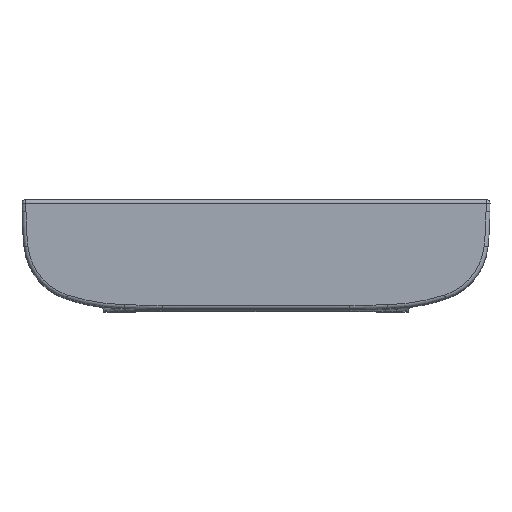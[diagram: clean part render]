
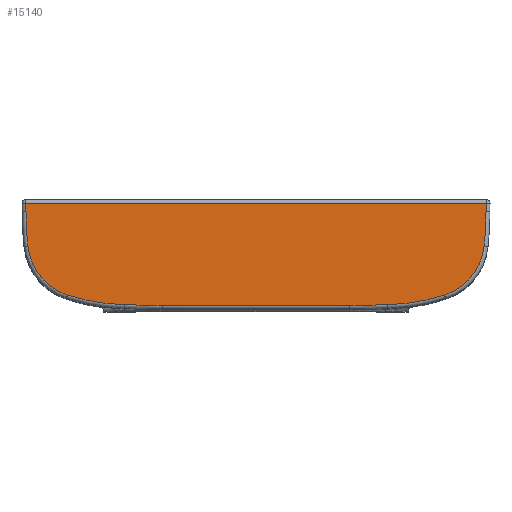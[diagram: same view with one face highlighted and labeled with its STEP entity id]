
A CAD part, top view. The second image highlights one B-rep face of the part: STEP entity #15140.
In plain terms, the highlighted planar face has unit normal (0, 0, 1).
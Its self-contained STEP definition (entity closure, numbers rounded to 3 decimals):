
#502 = ORIENTED_EDGE ( 'NONE', *, *, #25304, .F. ) ;
#631 = AXIS2_PLACEMENT_3D ( 'NONE', #7386, #17440, #24755 ) ;
#793 = CARTESIAN_POINT ( 'NONE',  ( -294.869, -14.956, 175. ) ) ;
#968 = DIRECTION ( 'NONE',  ( 1., 0., 0. ) ) ;
#1090 = CIRCLE ( 'NONE', #8884, 258.802 ) ;
#1128 = DIRECTION ( 'NONE',  ( 1., 0., 0. ) ) ;
#1131 = CIRCLE ( 'NONE', #3229, 258.802 ) ;
#1134 = DIRECTION ( 'NONE',  ( 0., 0., 1. ) ) ;
#1301 = CARTESIAN_POINT ( 'NONE',  ( -292.411, -59.273, 175. ) ) ;
#2089 = CIRCLE ( 'NONE', #10381, 1861.011 ) ;
#2299 = DIRECTION ( 'NONE',  ( 0., 0., -1. ) ) ;
#2377 = VERTEX_POINT ( 'NONE', #7970 ) ;
#2916 = LINE ( 'NONE', #793, #26970 ) ;
#3229 = AXIS2_PLACEMENT_3D ( 'NONE', #27295, #29098, #9921 ) ;
#3416 = CARTESIAN_POINT ( 'NONE',  ( 294.869, -14.956, 175. ) ) ;
#4262 = CARTESIAN_POINT ( 'NONE',  ( -180.566, -10.807, 175. ) ) ;
#4448 = CARTESIAN_POINT ( 'NONE',  ( 180.566, -4., 175. ) ) ;
#4599 = VERTEX_POINT ( 'NONE', #6798 ) ;
#4697 = AXIS2_PLACEMENT_3D ( 'NONE', #23087, #30092, #30408 ) ;
#4738 = AXIS2_PLACEMENT_3D ( 'NONE', #31236, #10763, #30590 ) ;
#5292 = VECTOR ( 'NONE', #14352, 1000. ) ;
#5521 = DIRECTION ( 'NONE',  ( -0.009, -1., 0. ) ) ;
#6393 = EDGE_CURVE ( 'NONE', #9484, #11441, #9798, .T. ) ;
#6798 = CARTESIAN_POINT ( 'NONE',  ( -241.724, -121.921, 175. ) ) ;
#7386 = CARTESIAN_POINT ( 'NONE',  ( 120.123, 1726.011, 175. ) ) ;
#7967 = VERTEX_POINT ( 'NONE', #8168 ) ;
#7970 = CARTESIAN_POINT ( 'NONE',  ( -120.123, -135., 175. ) ) ;
#8168 = CARTESIAN_POINT ( 'NONE',  ( -168.974, -134.359, 175. ) ) ;
#8362 = ORIENTED_EDGE ( 'NONE', *, *, #23865, .T. ) ;
#8571 = ORIENTED_EDGE ( 'NONE', *, *, #6393, .T. ) ;
#8884 = AXIS2_PLACEMENT_3D ( 'NONE', #10398, #1134, #968 ) ;
#9258 = CARTESIAN_POINT ( 'NONE',  ( 180.566, -10.807, 175. ) ) ;
#9340 = AXIS2_PLACEMENT_3D ( 'NONE', #9258, #31839, #21752 ) ;
#9484 = VERTEX_POINT ( 'NONE', #28355 ) ;
#9560 = DIRECTION ( 'NONE',  ( 0., 0., 1. ) ) ;
#9798 = CIRCLE ( 'NONE', #32116, 475.454 ) ;
#9921 = DIRECTION ( 'NONE',  ( -1., 0., 0. ) ) ;
#10057 = DIRECTION ( 'NONE',  ( 0.009, -1., 0. ) ) ;
#10381 = AXIS2_PLACEMENT_3D ( 'NONE', #29548, #11693, #24189 ) ;
#10398 = CARTESIAN_POINT ( 'NONE',  ( -162.18, 124.354, 175. ) ) ;
#10429 = VECTOR ( 'NONE', #5521, 1000. ) ;
#10608 = CARTESIAN_POINT ( 'NONE',  ( 168.974, -134.359, 175. ) ) ;
#10763 = DIRECTION ( 'NONE',  ( 0., 0., -1. ) ) ;
#10878 = CARTESIAN_POINT ( 'NONE',  ( 120.123, -135., 175. ) ) ;
#11441 = VERTEX_POINT ( 'NONE', #1301 ) ;
#11519 = LINE ( 'NONE', #28573, #15593 ) ;
#11647 = ORIENTED_EDGE ( 'NONE', *, *, #30036, .T. ) ;
#11693 = DIRECTION ( 'NONE',  ( 0., 0., 1. ) ) ;
#11994 = DIRECTION ( 'NONE',  ( 1., 0., 0. ) ) ;
#14162 = DIRECTION ( 'NONE',  ( -1., 0., 0. ) ) ;
#14352 = DIRECTION ( 'NONE',  ( -1., 0., 0. ) ) ;
#14597 = ORIENTED_EDGE ( 'NONE', *, *, #19014, .T. ) ;
#15107 = AXIS2_PLACEMENT_3D ( 'NONE', #4262, #2299, #14162 ) ;
#15140 = ADVANCED_FACE ( 'NONE', ( #29227 ), #24510, .T. ) ;
#15160 = EDGE_CURVE ( 'NONE', #7967, #2377, #2089, .T. ) ;
#15586 = CARTESIAN_POINT ( 'NONE',  ( -294.965, -4., 175. ) ) ;
#15593 = VECTOR ( 'NONE', #1128, 1000. ) ;
#15758 = EDGE_CURVE ( 'NONE', #23540, #9484, #2916, .T. ) ;
#17440 = DIRECTION ( 'NONE',  ( 0., 0., -1. ) ) ;
#17746 = VERTEX_POINT ( 'NONE', #10878 ) ;
#18698 = CIRCLE ( 'NONE', #4697, 73.733 ) ;
#18894 = VERTEX_POINT ( 'NONE', #27643 ) ;
#18977 = CARTESIAN_POINT ( 'NONE',  ( 180.566, -10.807, 175. ) ) ;
#19014 = EDGE_CURVE ( 'NONE', #11441, #4599, #18698, .T. ) ;
#19540 = LINE ( 'NONE', #4448, #5292 ) ;
#19652 = CARTESIAN_POINT ( 'NONE',  ( 241.724, -121.921, 175. ) ) ;
#20326 = CIRCLE ( 'NONE', #631, 1861.011 ) ;
#20587 = ORIENTED_EDGE ( 'NONE', *, *, #31408, .F. ) ;
#20972 = EDGE_CURVE ( 'NONE', #29986, #23828, #27122, .T. ) ;
#21694 = ORIENTED_EDGE ( 'NONE', *, *, #20972, .F. ) ;
#21752 = DIRECTION ( 'NONE',  ( 1., 0., 0. ) ) ;
#21816 = ORIENTED_EDGE ( 'NONE', *, *, #30641, .F. ) ;
#21881 = EDGE_CURVE ( 'NONE', #2377, #17746, #11519, .T. ) ;
#22665 = VERTEX_POINT ( 'NONE', #19652 ) ;
#23087 = CARTESIAN_POINT ( 'NONE',  ( -219.062, -51.757, 175. ) ) ;
#23303 = ORIENTED_EDGE ( 'NONE', *, *, #21881, .T. ) ;
#23540 = VERTEX_POINT ( 'NONE', #15586 ) ;
#23624 = ORIENTED_EDGE ( 'NONE', *, *, #15758, .T. ) ;
#23828 = VERTEX_POINT ( 'NONE', #3416 ) ;
#23865 = EDGE_CURVE ( 'NONE', #4599, #7967, #1090, .T. ) ;
#24024 = ORIENTED_EDGE ( 'NONE', *, *, #15160, .T. ) ;
#24189 = DIRECTION ( 'NONE',  ( 1., 0., 0. ) ) ;
#24289 = ORIENTED_EDGE ( 'NONE', *, *, #25461, .F. ) ;
#24510 = PLANE ( 'NONE',  #9340 ) ;
#24685 = CARTESIAN_POINT ( 'NONE',  ( 294.869, -14.956, 175. ) ) ;
#24755 = DIRECTION ( 'NONE',  ( -1., 0., 0. ) ) ;
#24892 = VERTEX_POINT ( 'NONE', #10608 ) ;
#24964 = CIRCLE ( 'NONE', #15107, 475.454 ) ;
#25304 = EDGE_CURVE ( 'NONE', #18894, #22665, #28067, .T. ) ;
#25461 = EDGE_CURVE ( 'NONE', #23828, #18894, #24964, .T. ) ;
#26970 = VECTOR ( 'NONE', #10057, 1000. ) ;
#27122 = LINE ( 'NONE', #24685, #10429 ) ;
#27295 = CARTESIAN_POINT ( 'NONE',  ( 162.18, 124.354, 175. ) ) ;
#27643 = CARTESIAN_POINT ( 'NONE',  ( 292.411, -59.273, 175. ) ) ;
#28067 = CIRCLE ( 'NONE', #4738, 73.733 ) ;
#28355 = CARTESIAN_POINT ( 'NONE',  ( -294.869, -14.956, 175. ) ) ;
#28573 = CARTESIAN_POINT ( 'NONE',  ( 180.566, -135., 175. ) ) ;
#29098 = DIRECTION ( 'NONE',  ( 0., 0., -1. ) ) ;
#29227 = FACE_OUTER_BOUND ( 'NONE', #31186, .T. ) ;
#29548 = CARTESIAN_POINT ( 'NONE',  ( -120.123, 1726.011, 175. ) ) ;
#29614 = CARTESIAN_POINT ( 'NONE',  ( 294.965, -4., 175. ) ) ;
#29986 = VERTEX_POINT ( 'NONE', #29614 ) ;
#30036 = EDGE_CURVE ( 'NONE', #29986, #23540, #19540, .T. ) ;
#30092 = DIRECTION ( 'NONE',  ( 0., 0., 1. ) ) ;
#30408 = DIRECTION ( 'NONE',  ( 1., 0., 0. ) ) ;
#30590 = DIRECTION ( 'NONE',  ( -1., 0., 0. ) ) ;
#30641 = EDGE_CURVE ( 'NONE', #22665, #24892, #1131, .T. ) ;
#31186 = EDGE_LOOP ( 'NONE', ( #23303, #20587, #21816, #502, #24289, #21694, #11647, #23624, #8571, #14597, #8362, #24024 ) ) ;
#31236 = CARTESIAN_POINT ( 'NONE',  ( 219.062, -51.757, 175. ) ) ;
#31408 = EDGE_CURVE ( 'NONE', #24892, #17746, #20326, .T. ) ;
#31839 = DIRECTION ( 'NONE',  ( 0., 0., 1. ) ) ;
#32116 = AXIS2_PLACEMENT_3D ( 'NONE', #18977, #9560, #11994 ) ;
